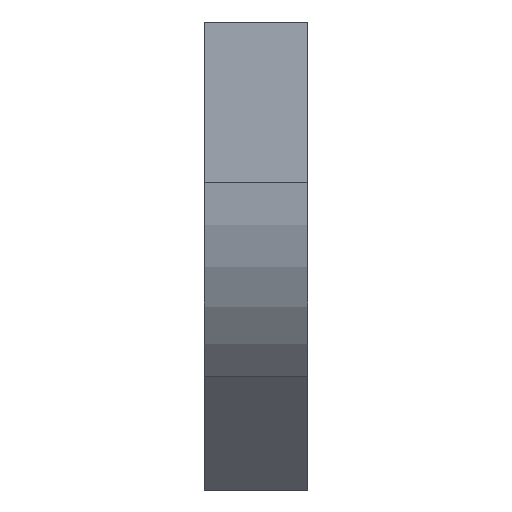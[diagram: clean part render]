
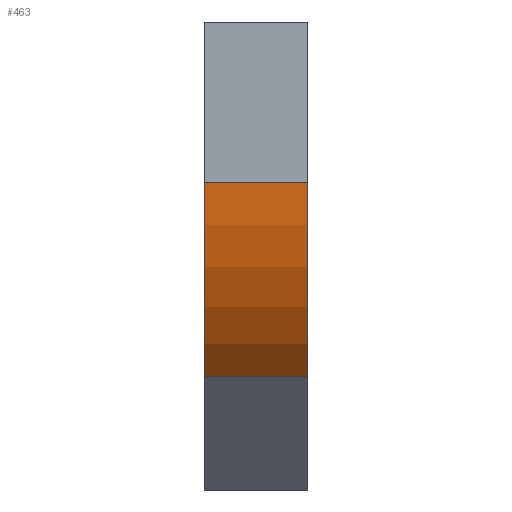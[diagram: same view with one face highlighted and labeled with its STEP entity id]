
A CAD part, left-side view. The second image highlights one B-rep face of the part: STEP entity #463.
In plain terms, the highlighted cylindrical face has radius 300 mm (diameter 600 mm), a partial arc.
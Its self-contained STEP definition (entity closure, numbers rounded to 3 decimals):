
#76 = EDGE_CURVE ( 'NONE', #1026, #1038, #1119, .T. ) ;
#97 = CYLINDRICAL_SURFACE ( 'NONE', #1368, 300. ) ;
#207 = CARTESIAN_POINT ( 'NONE',  ( 300., 0., -174.264 ) ) ;
#326 = CARTESIAN_POINT ( 'NONE',  ( 0., 0., -174.264 ) ) ;
#338 = ORIENTED_EDGE ( 'NONE', *, *, #521, .T. ) ;
#413 = DIRECTION ( 'NONE',  ( 0., 0., -1. ) ) ;
#463 = ADVANCED_FACE ( 'NONE', ( #797 ), #97, .T. ) ;
#485 = DIRECTION ( 'NONE',  ( 0., -1., 0. ) ) ;
#508 = VERTEX_POINT ( 'NONE', #1010 ) ;
#521 = EDGE_CURVE ( 'NONE', #632, #1026, #954, .T. ) ;
#535 = CARTESIAN_POINT ( 'NONE',  ( 300., 0., -174.264 ) ) ;
#540 = EDGE_CURVE ( 'NONE', #632, #508, #1165, .T. ) ;
#609 = DIRECTION ( 'NONE',  ( -1., 0., 0. ) ) ;
#632 = VERTEX_POINT ( 'NONE', #932 ) ;
#649 = DIRECTION ( 'NONE',  ( 0., -1., 0. ) ) ;
#785 = DIRECTION ( 'NONE',  ( 0., -1., 0. ) ) ;
#797 = FACE_OUTER_BOUND ( 'NONE', #1520, .T. ) ;
#821 = VECTOR ( 'NONE', #1162, 1000. ) ;
#932 = CARTESIAN_POINT ( 'NONE',  ( 0., 112.5, -174.264 ) ) ;
#954 = CIRCLE ( 'NONE', #1204, 300. ) ;
#1010 = CARTESIAN_POINT ( 'NONE',  ( 0., 0., -174.264 ) ) ;
#1026 = VERTEX_POINT ( 'NONE', #1057 ) ;
#1031 = ORIENTED_EDGE ( 'NONE', *, *, #540, .F. ) ;
#1038 = VERTEX_POINT ( 'NONE', #1356 ) ;
#1057 = CARTESIAN_POINT ( 'NONE',  ( 87.868, 112.5, -386.396 ) ) ;
#1086 = ORIENTED_EDGE ( 'NONE', *, *, #76, .T. ) ;
#1089 = AXIS2_PLACEMENT_3D ( 'NONE', #207, #485, #1496 ) ;
#1119 = LINE ( 'NONE', #1457, #821 ) ;
#1162 = DIRECTION ( 'NONE',  ( 0., -1., 0. ) ) ;
#1165 = LINE ( 'NONE', #326, #1686 ) ;
#1204 = AXIS2_PLACEMENT_3D ( 'NONE', #1605, #785, #609 ) ;
#1336 = ORIENTED_EDGE ( 'NONE', *, *, #1495, .F. ) ;
#1356 = CARTESIAN_POINT ( 'NONE',  ( 87.868, 0., -386.396 ) ) ;
#1368 = AXIS2_PLACEMENT_3D ( 'NONE', #535, #1549, #413 ) ;
#1457 = CARTESIAN_POINT ( 'NONE',  ( 87.868, 0., -386.396 ) ) ;
#1495 = EDGE_CURVE ( 'NONE', #508, #1038, #1665, .T. ) ;
#1496 = DIRECTION ( 'NONE',  ( -1., 0., 0. ) ) ;
#1520 = EDGE_LOOP ( 'NONE', ( #1336, #1031, #338, #1086 ) ) ;
#1549 = DIRECTION ( 'NONE',  ( 0., -1., 0. ) ) ;
#1605 = CARTESIAN_POINT ( 'NONE',  ( 300., 112.5, -174.264 ) ) ;
#1665 = CIRCLE ( 'NONE', #1089, 300. ) ;
#1686 = VECTOR ( 'NONE', #649, 1000. ) ;
